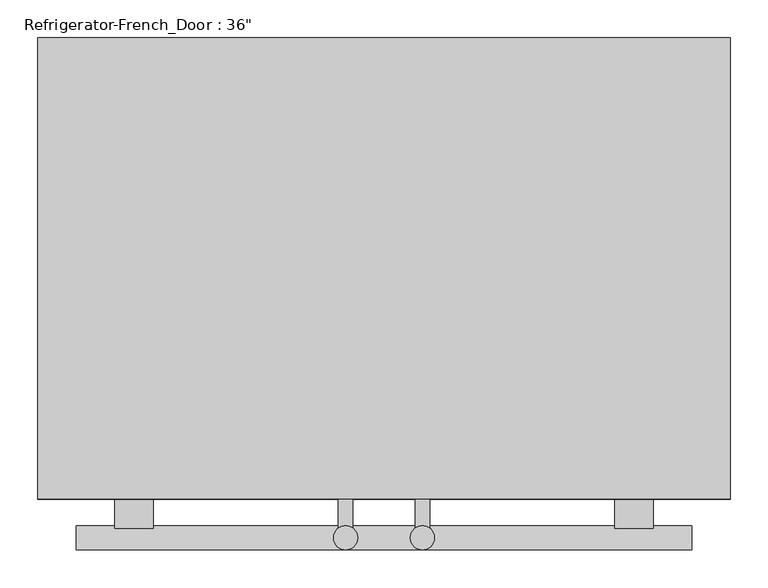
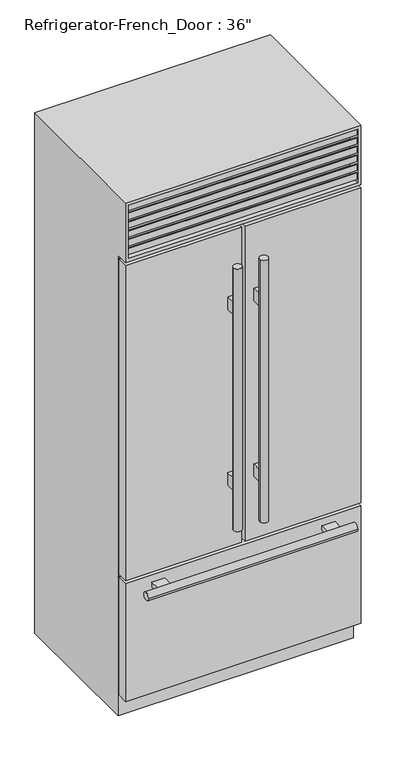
"""IFC4 building model written with IfcOpenShell, lengths in millimetres: proxy geometry."""

import ifcopenshell
import ifcopenshell.guid

model = None  # the IFC model being written
_history = None  # IfcOwnerHistory: only IFC2X3 demands one
_inside = {}  # id of a spatial element -> (the spatial element, [elements in it])
_under = {}  # id of a project, library or spatial element -> (it, [spatial elements below it])
_declared = {}  # id of a project -> (the project, [libraries it declares])
_typed = {}  # id of a type object -> (the type object, [elements of that type])
_made_of = {}  # id of a material, layer set ... -> (it, [elements and type objects made of it])


def new_model(schema):
    """Start an empty IFC model of exactly this schema.

    Asked for "IFC4X3", IfcOpenShell would pick the latest addendum, in which some entities
    have other attributes; the version numbers below select the first issue.
    IFC2X3 requires an IfcOwnerHistory on every rooted entity: one is made here for all.
    """
    global model, _history
    if schema == "IFC4X3":
        model = ifcopenshell.file(schema_version=(4, 3, 0, 0))
    else:
        model = ifcopenshell.file(schema=schema)
    _inside.clear()
    _under.clear()
    _declared.clear()
    _typed.clear()
    _made_of.clear()
    _history = None
    if model.schema == "IFC2X3":
        org = make("IfcOrganization", Name="unknown")
        user = make(
            "IfcPersonAndOrganization",
            ThePerson=make("IfcPerson", FamilyName="unknown"),
            TheOrganization=org,
        )
        app = make(
            "IfcApplication",
            ApplicationDeveloper=org,
            Version="unknown",
            ApplicationFullName="unknown",
            ApplicationIdentifier="unknown",
        )
        _history = make(
            "IfcOwnerHistory",
            OwningUser=user,
            OwningApplication=app,
            ChangeAction="ADDED",
            CreationDate=0,
        )
    return model


def make(cls, **values):
    """One entity of the class cls with the attributes given. An attribute that is None is left unset."""
    return model.create_entity(
        cls, **{name: value for name, value in values.items() if value is not None}
    )


def rooted(cls, **values):
    """An entity with a GlobalId (a new one), such as an element, a storey or a relation."""
    return make(cls, GlobalId=ifcopenshell.guid.new(), OwnerHistory=_history, **values)


def si_unit(unit_type, name, prefix=None):
    """IfcSIUnit, for example si_unit("LENGTHUNIT", "METRE", prefix="MILLI")."""
    return make("IfcSIUnit", UnitType=unit_type, Prefix=prefix, Name=name)


def assignment(units):
    """IfcUnitAssignment: the units of a project."""
    return None if units is None else make("IfcUnitAssignment", Units=units)


def point(xyz):
    """IfcCartesianPoint."""
    return None if xyz is None else make("IfcCartesianPoint", Coordinates=xyz)


def direction(xyz):
    """IfcDirection."""
    return None if xyz is None else make("IfcDirection", DirectionRatios=xyz)


def frame(location, z_axis=None, x_axis=None):
    """IfcAxis2Placement3D, a coordinate frame: its origin and axes. An axis left out is left unset."""
    return make(
        "IfcAxis2Placement3D",
        Location=point(location),
        Axis=direction(z_axis),
        RefDirection=direction(x_axis),
    )


def origin():
    """The frame at (0, 0, 0) with its axes left unset."""
    return frame((0.0, 0.0, 0.0))


def place(relative_to, where):
    """IfcLocalPlacement: puts the frame where relative to a parent placement (None: the world)."""
    return make(
        "IfcLocalPlacement", PlacementRelTo=relative_to, RelativePlacement=where
    )


def context(
    kind, dimensions, precision=None, world=None, true_north=None, identifier=None
):
    """IfcGeometricRepresentationContext, for example the 3D "Model" context."""
    return make(
        "IfcGeometricRepresentationContext",
        ContextIdentifier=identifier,
        ContextType=kind,
        CoordinateSpaceDimension=dimensions,
        Precision=precision,
        WorldCoordinateSystem=world,
        TrueNorth=true_north,
    )


def project(units=None, contexts=None):
    """IfcProject with its units and contexts."""
    return rooted(
        "IfcProject",
        Name="project",
        RepresentationContexts=contexts,
        UnitsInContext=assignment(units),
    )


def spatial(cls, under=None, at=None, **own):
    """A site, building, storey or space (cls), placed at a placement, below another one or the project."""
    s = rooted(cls, ObjectPlacement=at, **own)
    if under is not None:
        _under.setdefault(under.id(), (under, []))[1].append(s)
    return s


def polyline(points):
    """IfcPolyline through the points."""
    return make("IfcPolyline", Points=[point(p) for p in points])


def circle_curve(where, radius):
    """IfcCircle in the frame where."""
    return make("IfcCircle", Position=where, Radius=radius)


def ellipse_curve(where, semi_axis1, semi_axis2):
    """IfcEllipse in the frame where."""
    return make(
        "IfcEllipse", Position=where, SemiAxis1=semi_axis1, SemiAxis2=semi_axis2
    )


def outline(outer, holes=None, kind="AREA"):
    """IfcArbitraryClosedProfileDef: a profile drawn as a closed curve; with holes, ...WithVoids."""
    if holes is None:
        return make("IfcArbitraryClosedProfileDef", ProfileType=kind, OuterCurve=outer)
    return make(
        "IfcArbitraryProfileDefWithVoids",
        ProfileType=kind,
        OuterCurve=outer,
        InnerCurves=holes,
    )


def extrude(swept, where, along, depth):
    """IfcExtrudedAreaSolid: the profile swept, set in the frame where, extruded along a direction by depth."""
    return make(
        "IfcExtrudedAreaSolid",
        SweptArea=swept,
        Position=where,
        ExtrudedDirection=direction(along),
        Depth=depth,
    )


def faces_of(points, faces, orient=None, outer=None):
    """IfcFace entities. A face is a list of loops; a loop is a list of indices into points, from 0.

    orient and outer hold one flag for each loop. By default every Orientation is true, the
    first loop of a face is its IfcFaceOuterBound and the others are IfcFaceBound.
    """
    made = []
    for i, loops in enumerate(faces):
        bounds = []
        for j, loop in enumerate(loops):
            is_outer = j == 0 if outer is None else outer[i][j]
            bounds.append(
                make(
                    "IfcFaceOuterBound" if is_outer else "IfcFaceBound",
                    Bound=make("IfcPolyLoop", Polygon=[points[k] for k in loop]),
                    Orientation=True if orient is None else orient[i][j],
                )
            )
        made.append(make("IfcFace", Bounds=bounds))
    return made


def faceted_brep(points, faces, orient=None, outer=None, voids=None):
    """IfcFacetedBrep: a solid bounded by flat faces; with voids (closed shells), ...WithVoids."""
    shared = [point(p) for p in points]
    hull = make("IfcClosedShell", CfsFaces=faces_of(shared, faces, orient, outer))
    if voids is None:
        return make("IfcFacetedBrep", Outer=hull)
    return make(
        "IfcFacetedBrepWithVoids",
        Outer=hull,
        Voids=[
            make(cls, CfsFaces=faces_of(shared, fs, o, b)) for cls, fs, o, b in voids
        ],
    )


def shape(context_of_items, identifier, shape_type, items):
    """IfcShapeRepresentation: the items that make up one representation, for example the "Body"."""
    return make(
        "IfcShapeRepresentation",
        ContextOfItems=context_of_items,
        RepresentationIdentifier=identifier,
        RepresentationType=shape_type,
        Items=items,
    )


def source(mapping_origin, context_of_items, identifier, shape_type, items):
    """IfcRepresentationMap: a shape defined once, which mapped items show again and again."""
    return make(
        "IfcRepresentationMap",
        MappingOrigin=mapping_origin,
        MappedRepresentation=shape(context_of_items, identifier, shape_type, items),
    )


def transform(
    local_origin,
    x_axis=None,
    y_axis=None,
    z_axis=None,
    scale=None,
    scale2=None,
    scale3=None,
    uniform=True,
):
    """IfcCartesianTransformationOperator3D, or its non-uniform kind. x_axis, y_axis, z_axis: its Axis1, 2, 3."""
    if uniform:
        return make(
            "IfcCartesianTransformationOperator3D",
            Axis1=direction(x_axis),
            Axis2=direction(y_axis),
            LocalOrigin=point(local_origin),
            Scale=scale,
            Axis3=direction(z_axis),
        )
    return make(
        "IfcCartesianTransformationOperator3DnonUniform",
        Axis1=direction(x_axis),
        Axis2=direction(y_axis),
        LocalOrigin=point(local_origin),
        Scale=scale,
        Axis3=direction(z_axis),
        Scale2=scale2,
        Scale3=scale3,
    )


def mapped(mapping_source, mapping_target):
    """IfcMappedItem: shows the shape of a source again, moved by a transform."""
    return make(
        "IfcMappedItem", MappingSource=mapping_source, MappingTarget=mapping_target
    )


def made_of(thing, what):
    """Note that an element or type object is made of a material, layer set ...; save() writes the relation."""
    if what is not None:
        _made_of.setdefault(what.id(), (what, []))[1].append(thing)
    return thing


def element(
    cls,
    number,
    at=None,
    inside=None,
    cuts=None,
    type_object=None,
    material=None,
    context=None,
    identifier="Body",
    shape_type=None,
    held_by="IfcProductDefinitionShape",
    body=None,
    shapes=None,
    **own,
):
    """One element of the class cls, such as IfcWall. Its Tag is "e" and its number.

    at: its placement. inside: the storey or other place that contains it. cuts: it is an
    opening in that element (IfcRelVoidsElement). A single representation is given by context,
    identifier, shape_type and body (its items); several are given by shapes. held_by: the class
    of the entity that holds the representations. save() writes the other relations.
    """
    e = rooted(cls, Tag="e%d" % number, ObjectPlacement=at, **own)
    if body is not None:
        shapes = [shape(context, identifier, shape_type, body)]
    if shapes is not None:
        e.Representation = make(held_by, Representations=shapes)
    if inside is not None:
        _inside.setdefault(inside.id(), (inside, []))[1].append(e)
    if cuts is not None:
        rooted(
            "IfcRelVoidsElement", RelatingBuildingElement=cuts, RelatedOpeningElement=e
        )
    if type_object is not None:
        _typed.setdefault(type_object.id(), (type_object, []))[1].append(e)
    return made_of(e, material)


def aggregate(whole, parts):
    """IfcRelAggregates: a whole, such as a stair, and the parts it consists of."""
    return rooted("IfcRelAggregates", RelatingObject=whole, RelatedObjects=parts)


def save(model, path):
    """Write the relations noted so far, then the file.

    IfcRelAggregates (storeys below a building ...), IfcRelContainedInSpatialStructure (elements
    in a storey), IfcRelDefinesByType, IfcRelAssociatesMaterial and IfcRelDeclares: one each for
    every whole, place, type object, material and project.
    """
    for whole, parts in _under.values():
        aggregate(whole, parts)
    for where, things in _inside.values():
        rooted(
            "IfcRelContainedInSpatialStructure",
            RelatedElements=things,
            RelatingStructure=where,
        )
    for kind, things in _typed.values():
        rooted("IfcRelDefinesByType", RelatedObjects=things, RelatingType=kind)
    for what, things in _made_of.values():
        rooted("IfcRelAssociatesMaterial", RelatedObjects=things, RelatingMaterial=what)
    for by, libraries in _declared.values():
        rooted("IfcRelDeclares", RelatingContext=by, RelatedDefinitions=libraries)
    model.write(path)


def plane_surface(at):
    """IfcPlane: the flat surface through the origin of the frame at, square to its z axis."""
    return make("IfcPlane", Position=at)


def cylinder_surface(at, radius):
    """IfcCylindricalSurface: all points at the distance radius from the z axis of the frame at."""
    return make("IfcCylindricalSurface", Position=at, Radius=radius)


def advanced_brep(points, edges, surfaces, faces):
    """IfcAdvancedBrep: a solid bounded by faces that lie on surfaces and meet in shared edges.

    An edge is (start, end): straight between two places in points (the first is 0);
    or (start, end, curve); or (start, end, curve, False) where it runs against its curve.
    A face is (place in surfaces, loops), or (place, loops, False) where it looks against
    its surface's normal. A loop lists edges by number (the first is 1), with a minus sign
    where the edge is run from its end to its start. The first loop is the outer one.
    """
    corners = [point(p) for p in points]
    vertices = [make("IfcVertexPoint", VertexGeometry=c) for c in corners]
    made = []
    for start, end, *more in edges:
        made.append(
            make(
                "IfcEdgeCurve",
                EdgeStart=vertices[start],
                EdgeEnd=vertices[end],
                EdgeGeometry=more[0] if more else make("IfcPolyline", Points=[corners[start], corners[end]]),
                SameSense=more[1] if len(more) > 1 else True,
            )
        )
    hull = []
    for where, loops, *sense in faces:
        bounds = []
        for j, loop in enumerate(loops):
            ring = [make("IfcOrientedEdge", EdgeElement=made[abs(k) - 1], Orientation=k > 0) for k in loop]
            bounds.append(
                make(
                    "IfcFaceOuterBound" if j == 0 else "IfcFaceBound",
                    Bound=make("IfcEdgeLoop", EdgeList=ring),
                    Orientation=True,
                )
            )
        hull.append(make("IfcAdvancedFace", Bounds=bounds, FaceSurface=surfaces[where], SameSense=sense[0] if sense else True))
    return make("IfcAdvancedBrep", Outer=make("IfcClosedShell", CfsFaces=hull))


def proxy_7f263747(model_context):
    return source(origin(), model_context, "Body", "SolidModel", [
        extrude(outline(polyline([(-660.4, 1901.825), (-708.025, 1914.5860803), (-708.025, 1939.9860803), (-704.85, 1939.9860803), (-704.85, 1917.1368938), (-660.4, 1905.2265522), (-660.4, 1901.825)])), frame((-444.5, 0.0, 0.0), z_axis=(1.0, 0.0, 0.0), x_axis=(0.0, 1.0, 0.0)), (0.0, 0.0, 1.0), 889.0),
        extrude(outline(polyline([(-660.4, 1938.0077839), (-708.025, 1950.7688642), (-708.025, 1976.1688642), (-704.85, 1976.1688642), (-704.85, 1953.3196777), (-660.4, 1941.4093361), (-660.4, 1938.0077839)])), frame((-444.5, 0.0, 0.0), z_axis=(1.0, 0.0, 0.0), x_axis=(0.0, 1.0, 0.0)), (0.0, 0.0, 1.0), 889.0),
        extrude(outline(polyline([(-660.4, 1974.1905679), (-708.025, 1986.9516482), (-708.025, 2012.3516482), (-704.85, 2012.3516482), (-704.85, 1989.5024616), (-660.4, 1977.59212), (-660.4, 1974.1905679)])), frame((-444.5, 0.0, 0.0), z_axis=(1.0, 0.0, 0.0), x_axis=(0.0, 1.0, 0.0)), (0.0, 0.0, 1.0), 889.0),
        extrude(outline(polyline([(-660.4, 2010.3733518), (-708.025, 2023.1344321), (-708.025, 2048.5344321), (-704.85, 2048.5344321), (-704.85, 2025.6852456), (-660.4, 2013.774904), (-660.4, 2010.3733518)])), frame((-444.5, 0.0, 0.0), z_axis=(1.0, 0.0, 0.0), x_axis=(0.0, 1.0, 0.0)), (0.0, 0.0, 1.0), 889.0),
        extrude(outline(polyline([(-660.4, 2046.5561358), (-708.025, 2059.3172161), (-708.025, 2084.7172161), (-704.85, 2084.7172161), (-704.85, 2061.8680295), (-660.4, 2049.9576879), (-660.4, 2046.5561358)])), frame((-444.5, 0.0, 0.0), z_axis=(1.0, 0.0, 0.0), x_axis=(0.0, 1.0, 0.0)), (0.0, 0.0, 1.0), 889.0),
        extrude(outline(polyline([(-660.4, 2082.7389197), (-708.025, 2095.5), (-708.025, 2120.9), (-704.85, 2120.9), (-704.85, 2098.0508135), (-660.4, 2086.1404719), (-660.4, 2082.7389197)])), frame((-444.5, 0.0, 0.0), z_axis=(1.0, 0.0, 0.0), x_axis=(0.0, 1.0, 0.0)), (0.0, 0.0, 1.0), 889.0),
        faceted_brep([(457.2, -711.2, 2133.6), (-457.2, -711.2, 2133.6), (-457.2, -711.2, 1889.125), (457.2, -711.2, 1889.125), (444.5, -711.2, 2120.9), (444.5, -711.2, 1901.825), (-444.5, -711.2, 1901.825), (-444.5, -711.2, 2120.9), (457.2, -101.6, 2133.6), (-457.2, -101.6, 2133.6), (-457.2, -101.6, 0.0), (-457.2, -660.4, 0.0), (-457.2, -660.4, 1889.125), (457.2, -660.4, 1889.125), (457.2, -660.4, 0.0), (457.2, -101.6, 0.0), (-444.5, -660.4, 2120.9), (444.5, -660.4, 2120.9), (-444.5, -660.4, 1901.825), (444.5, -660.4, 1901.825)], [[[0, 1, 2, 3], [4, 5, 6, 7]], [[1, 0, 8, 9]], [[2, 1, 9, 10, 11, 12]], [[3, 2, 12, 13]], [[8, 0, 3, 13, 14, 15]], [[4, 7, 16, 17]], [[7, 6, 18, 16]], [[6, 5, 19, 18]], [[5, 4, 17, 19]], [[15, 14, 11, 10]], [[9, 8, 15, 10]], [[17, 16, 18, 19]], [[11, 14, 13, 12]]]),
        extrude(outline(polyline([(-457.2, -666.75), (-6.35, -666.75), (-6.35, -711.2), (-457.2, -711.2), (-457.2, -666.75)])), frame((0.0, 0.0, 584.2), z_axis=(0.0, 0.0, 1.0), x_axis=(1.0, 0.0, 0.0)), (0.0, 0.0, 1.0), 1292.225),
        extrude(outline(polyline([(6.35, -666.75), (457.2, -666.75), (457.2, -711.2), (6.35, -711.2), (6.35, -666.75)])), frame((0.0, 0.0, 584.2), z_axis=(0.0, 0.0, 1.0), x_axis=(1.0, 0.0, 0.0)), (0.0, 0.0, 1.0), 1292.225),
        extrude(outline(polyline([(-457.2, -666.75), (457.2, -666.75), (457.2, -711.2), (-457.2, -711.2), (-457.2, -666.75)])), frame((0.0, 0.0, 88.9), z_axis=(0.0, 0.0, 1.0), x_axis=(1.0, 0.0, 0.0)), (0.0, 0.0, 1.0), 482.6),
        advanced_brep(
        [(-41.275, -711.2, 1609.725), (-41.275, -711.2, 1558.925), (-60.325, -711.2, 1558.925), (-60.325, -711.2, 1609.725), (-41.275, -711.2, 889.0), (-41.275, -711.2, 838.2), (-60.325, -711.2, 838.2), (-60.325, -711.2, 889.0), (-41.275, -749.6741958, 1609.725), (-41.275, -749.6741958, 1558.925), (-60.325, -749.6741958, 1558.925), (-60.325, -749.6741958, 1609.725), (-41.275, -749.6741958, 889.0), (-41.275, -749.6741958, 838.2), (-60.325, -749.6741958, 838.2), (-60.325, -749.6741958, 889.0), (-66.675, -762.3741958, 1762.125), (-34.925, -762.3741958, 1762.125), (-66.675, -762.3741958, 685.8), (-34.925, -762.3741958, 685.8)],
        [
            (0, 1),
            (1, 2),
            (2, 3),
            (3, 0),
            (4, 5),
            (5, 6),
            (6, 7),
            (7, 4),
            (0, 8),
            (8, 9),
            (9, 1),
            (9, 10, circle_curve(frame((-50.8, -762.3741958, 1558.925), z_axis=(0.0, 0.0, 1.0), x_axis=(1.0, 0.0, 0.0)), 15.875)),
            (10, 2),
            (10, 11),
            (11, 3),
            (11, 8, circle_curve(frame((-50.8, -762.3741958, 1609.725), z_axis=(0.0, 0.0, -1.0), x_axis=(1.0, 0.0, 0.0)), 15.875)),
            (4, 12),
            (12, 13),
            (13, 5),
            (13, 14, circle_curve(frame((-50.8, -762.3741958, 838.2), z_axis=(0.0, 0.0, 1.0), x_axis=(1.0, 0.0, 0.0)), 15.875)),
            (14, 6),
            (14, 15),
            (15, 7),
            (15, 12, circle_curve(frame((-50.8, -762.3741958, 889.0), z_axis=(0.0, 0.0, -1.0), x_axis=(1.0, 0.0, 0.0)), 15.875)),
            (16, 17, circle_curve(frame((-50.8, -762.3741958, 1762.125), z_axis=(0.0, 0.0, 1.0), x_axis=(1.0, 0.0, 0.0)), 15.875)),
            (17, 16, circle_curve(frame((-50.8, -762.3741958, 1762.125), z_axis=(0.0, 0.0, 1.0), x_axis=(1.0, 0.0, 0.0)), 15.875)),
            (18, 19, circle_curve(frame((-50.8, -762.3741958, 685.8), z_axis=(0.0, 0.0, -1.0), x_axis=(1.0, 0.0, 0.0)), 15.875)),
            (19, 18, circle_curve(frame((-50.8, -762.3741958, 685.8), z_axis=(0.0, 0.0, -1.0), x_axis=(1.0, 0.0, 0.0)), 15.875)),
            (16, 18),
            (19, 17),
        ],
        [
            plane_surface(frame((-41.275, -711.2, 1609.725), z_axis=(0.0, 1.0, 0.0), x_axis=(0.0, 0.0, -1.0))),
            plane_surface(frame((-41.275, -711.2, 1609.725), z_axis=(1.0, 0.0, 0.0), x_axis=(0.0, -1.0, 0.0))),
            plane_surface(frame((-41.275, -711.2, 1558.925), z_axis=(0.0, 0.0, -1.0), x_axis=(0.0, -1.0, 0.0))),
            plane_surface(frame((-60.325, -711.2, 1558.925), z_axis=(-1.0, 0.0, 0.0), x_axis=(0.0, -1.0, 0.0))),
            plane_surface(frame((-60.325, -711.2, 1609.725), z_axis=(0.0, 0.0, 1.0), x_axis=(0.0, -1.0, 0.0))),
            plane_surface(frame((-41.275, -711.2, 889.0), z_axis=(1.0, 0.0, 0.0), x_axis=(0.0, -1.0, 0.0))),
            plane_surface(frame((-41.275, -711.2, 838.2), z_axis=(0.0, 0.0, -1.0), x_axis=(0.0, -1.0, 0.0))),
            plane_surface(frame((-60.325, -711.2, 838.2), z_axis=(-1.0, 0.0, 0.0), x_axis=(0.0, -1.0, 0.0))),
            plane_surface(frame((-60.325, -711.2, 889.0), z_axis=(0.0, 0.0, 1.0), x_axis=(0.0, -1.0, 0.0))),
            plane_surface(frame((-34.925, -762.3741958, 1762.125), z_axis=(0.0, 0.0, 1.0), x_axis=(0.0, 1.0, 0.0))),
            plane_surface(frame((-34.925, -762.3741958, 685.8), z_axis=(0.0, 0.0, -1.0), x_axis=(0.0, -1.0, 0.0))),
            cylinder_surface(frame((-50.8, -762.3741958, 685.8), z_axis=(0.0, 0.0, 1.0), x_axis=(1.0, 0.0, 0.0)), 15.875),
        ],
        [
            (0, [[1, 2, 3, 4]]),
            (0, [[5, 6, 7, 8]]),
            (1, [[-1, 9, 10, 11]]),
            (2, [[-2, -11, 12, 13]]),
            (3, [[-3, -13, 14, 15]]),
            (4, [[-4, -15, 16, -9]]),
            (5, [[-5, 17, 18, 19]]),
            (6, [[-6, -19, 20, 21]]),
            (7, [[-7, -21, 22, 23]]),
            (8, [[-8, -23, 24, -17]]),
            (9, [[25, 26]]),
            (10, [[27, 28]]),
            (11, [[-25, 29, -28, 30]]),
            (11, [[-26, -30, -27, -29], [-10, -16, -14, -12], [-18, -24, -22, -20]]),
        ],
    ),
        advanced_brep(
        [(34.925, -762.3741958, 1762.125), (66.675, -762.3741958, 1762.125), (34.925, -762.3741958, 685.8), (66.675, -762.3741958, 685.8), (60.325, -749.6741958, 1558.925), (60.325, -749.6741958, 1609.725), (41.275, -749.6741958, 1609.725), (41.275, -749.6741958, 1558.925), (60.325, -749.6741958, 838.2), (60.325, -749.6741958, 889.0), (41.275, -749.6741958, 889.0), (41.275, -749.6741958, 838.2), (60.325, -711.2, 1609.725), (60.325, -711.2, 1558.925), (41.275, -711.2, 1558.925), (41.275, -711.2, 1609.725), (60.325, -711.2, 889.0), (60.325, -711.2, 838.2), (41.275, -711.2, 838.2), (41.275, -711.2, 889.0)],
        [
            (0, 1, circle_curve(frame((50.8, -762.3741958, 1762.125), z_axis=(0.0, 0.0, 1.0), x_axis=(1.0, 0.0, 0.0)), 15.875)),
            (1, 0, circle_curve(frame((50.8, -762.3741958, 1762.125), z_axis=(0.0, 0.0, 1.0), x_axis=(1.0, 0.0, 0.0)), 15.875)),
            (2, 3, circle_curve(frame((50.8, -762.3741958, 685.8), z_axis=(0.0, 0.0, -1.0), x_axis=(1.0, 0.0, 0.0)), 15.875)),
            (3, 2, circle_curve(frame((50.8, -762.3741958, 685.8), z_axis=(0.0, 0.0, -1.0), x_axis=(1.0, 0.0, 0.0)), 15.875)),
            (0, 2),
            (3, 1),
            (4, 5),
            (5, 6, circle_curve(frame((50.8, -762.3741958, 1609.725), z_axis=(0.0, 0.0, 1.0), x_axis=(1.0, 0.0, 0.0)), 15.875)),
            (6, 7),
            (7, 4, circle_curve(frame((50.8, -762.3741958, 1558.925), z_axis=(0.0, 0.0, -1.0), x_axis=(1.0, 0.0, 0.0)), 15.875)),
            (8, 9),
            (9, 10, circle_curve(frame((50.8, -762.3741958, 889.0), z_axis=(0.0, 0.0, 1.0), x_axis=(1.0, 0.0, 0.0)), 15.875)),
            (10, 11),
            (11, 8, circle_curve(frame((50.8, -762.3741958, 838.2), z_axis=(0.0, 0.0, -1.0), x_axis=(1.0, 0.0, 0.0)), 15.875)),
            (12, 13),
            (13, 14),
            (14, 15),
            (15, 12),
            (16, 17),
            (17, 18),
            (18, 19),
            (19, 16),
            (12, 5),
            (4, 13),
            (7, 14),
            (6, 15),
            (16, 9),
            (8, 17),
            (11, 18),
            (10, 19),
        ],
        [
            plane_surface(frame((66.675, -762.3741958, 1762.125), z_axis=(0.0, 0.0, 1.0), x_axis=(0.0, 1.0, 0.0))),
            plane_surface(frame((66.675, -762.3741958, 685.8), z_axis=(0.0, 0.0, -1.0), x_axis=(0.0, -1.0, 0.0))),
            cylinder_surface(frame((50.8, -762.3741958, 685.8), z_axis=(0.0, 0.0, 1.0), x_axis=(1.0, 0.0, 0.0)), 15.875),
            plane_surface(frame((60.325, -711.2, 1609.725), z_axis=(0.0, 1.0, 0.0), x_axis=(0.0, 0.0, -1.0))),
            plane_surface(frame((60.325, -711.2, 1609.725), z_axis=(1.0, 0.0, 0.0), x_axis=(0.0, -1.0, 0.0))),
            plane_surface(frame((60.325, -711.2, 1558.925), z_axis=(0.0, 0.0, -1.0), x_axis=(0.0, -1.0, 0.0))),
            plane_surface(frame((41.275, -711.2, 1558.925), z_axis=(-1.0, 0.0, 0.0), x_axis=(0.0, -1.0, 0.0))),
            plane_surface(frame((41.275, -711.2, 1609.725), z_axis=(0.0, 0.0, 1.0), x_axis=(0.0, -1.0, 0.0))),
            plane_surface(frame((60.325, -711.2, 889.0), z_axis=(1.0, 0.0, 0.0), x_axis=(0.0, -1.0, 0.0))),
            plane_surface(frame((60.325, -711.2, 838.2), z_axis=(0.0, 0.0, -1.0), x_axis=(0.0, -1.0, 0.0))),
            plane_surface(frame((41.275, -711.2, 838.2), z_axis=(-1.0, 0.0, 0.0), x_axis=(0.0, -1.0, 0.0))),
            plane_surface(frame((41.275, -711.2, 889.0), z_axis=(0.0, 0.0, 1.0), x_axis=(0.0, -1.0, 0.0))),
        ],
        [
            (0, [[1, 2]]),
            (1, [[3, 4]]),
            (2, [[-1, 5, -4, 6]]),
            (2, [[-2, -6, -3, -5], [7, 8, 9, 10], [11, 12, 13, 14]]),
            (3, [[15, 16, 17, 18]]),
            (3, [[19, 20, 21, 22]]),
            (4, [[-15, 23, -7, 24]]),
            (5, [[-16, -24, -10, 25]]),
            (6, [[-17, -25, -9, 26]]),
            (7, [[-18, -26, -8, -23]]),
            (8, [[-19, 27, -11, 28]]),
            (9, [[-20, -28, -14, 29]]),
            (10, [[-21, -29, -13, 30]]),
            (11, [[-22, -30, -12, -27]]),
        ],
    ),
        advanced_brep(
        [(-304.8, -711.2, 542.925), (-304.8, -711.2, 523.875), (-355.6, -711.2, 523.875), (-355.6, -711.2, 542.925), (304.8, -711.2, 542.925), (355.6, -711.2, 542.925), (355.6, -711.2, 523.875), (304.8, -711.2, 523.875), (-304.8, -749.6741958, 542.925), (-304.8, -746.4991958, 533.4), (-304.8, -749.6741958, 523.875), (-355.6, -749.6741958, 523.875), (-355.6, -746.4991958, 533.4), (-355.6, -749.6741958, 542.925), (304.8, -749.6741958, 542.925), (355.6, -749.6741958, 542.925), (355.6, -746.4991958, 533.4), (355.6, -749.6741958, 523.875), (304.8, -749.6741958, 523.875), (304.8, -746.4991958, 533.4), (406.4, -778.2491958, 533.4), (406.4, -746.4991958, 533.4), (-406.4, -778.2491958, 533.4), (-406.4, -746.4991958, 533.4)],
        [
            (0, 1),
            (1, 2),
            (2, 3),
            (3, 0),
            (4, 5),
            (5, 6),
            (6, 7),
            (7, 4),
            (0, 8),
            (8, 9, circle_curve(frame((-304.8, -762.3741958, 533.4), z_axis=(-1.0, 0.0, 0.0), x_axis=(0.0, 1.0, 0.0)), 15.875)),
            (9, 10, circle_curve(frame((-304.8, -762.3741958, 533.4), z_axis=(-1.0, 0.0, 0.0), x_axis=(0.0, 1.0, 0.0)), 15.875)),
            (10, 1),
            (10, 11),
            (11, 2),
            (11, 12, circle_curve(frame((-355.6, -762.3741958, 533.4), z_axis=(1.0, 0.0, 0.0), x_axis=(0.0, 1.0, 0.0)), 15.875)),
            (12, 13, circle_curve(frame((-355.6, -762.3741958, 533.4), z_axis=(1.0, 0.0, 0.0), x_axis=(0.0, 1.0, 0.0)), 15.875)),
            (13, 3),
            (13, 8),
            (4, 14),
            (14, 15),
            (15, 5),
            (15, 16, circle_curve(frame((355.6, -762.3741958, 533.4), z_axis=(-1.0, 0.0, 0.0), x_axis=(0.0, 1.0, 0.0)), 15.875)),
            (16, 17, circle_curve(frame((355.6, -762.3741958, 533.4), z_axis=(-1.0, 0.0, 0.0), x_axis=(0.0, 1.0, 0.0)), 15.875)),
            (17, 6),
            (17, 18),
            (18, 7),
            (18, 19, circle_curve(frame((304.8, -762.3741958, 533.4), z_axis=(1.0, 0.0, 0.0), x_axis=(0.0, 1.0, 0.0)), 15.875)),
            (19, 14, circle_curve(frame((304.8, -762.3741958, 533.4), z_axis=(1.0, 0.0, 0.0), x_axis=(0.0, 1.0, 0.0)), 15.875)),
            (20, 21, circle_curve(frame((406.4, -762.3741958, 533.4), z_axis=(1.0, 0.0, 0.0), x_axis=(0.0, 1.0, 0.0)), 15.875)),
            (21, 20, circle_curve(frame((406.4, -762.3741958, 533.4), z_axis=(1.0, 0.0, 0.0), x_axis=(0.0, 1.0, 0.0)), 15.875)),
            (22, 23, circle_curve(frame((-406.4, -762.3741958, 533.4), z_axis=(-1.0, 0.0, 0.0), x_axis=(0.0, 1.0, 0.0)), 15.875)),
            (23, 22, circle_curve(frame((-406.4, -762.3741958, 533.4), z_axis=(-1.0, 0.0, 0.0), x_axis=(0.0, 1.0, 0.0)), 15.875)),
            (20, 22),
            (23, 12),
            (9, 19),
            (16, 21),
        ],
        [
            plane_surface(frame((-304.8, -711.2, 542.925), z_axis=(0.0, 1.0, 0.0), x_axis=(0.0, 0.0, -1.0))),
            plane_surface(frame((-304.8, -711.2, 542.925), z_axis=(1.0, 0.0, 0.0), x_axis=(0.0, -1.0, 0.0))),
            plane_surface(frame((-304.8, -711.2, 523.875), z_axis=(0.0, 0.0, -1.0), x_axis=(0.0, -1.0, 0.0))),
            plane_surface(frame((-355.6, -711.2, 523.875), z_axis=(-1.0, 0.0, 0.0), x_axis=(0.0, -1.0, 0.0))),
            plane_surface(frame((-355.6, -711.2, 542.925), z_axis=(0.0, 0.0, 1.0), x_axis=(0.0, -1.0, 0.0))),
            plane_surface(frame((304.8, -711.2, 542.925), z_axis=(0.0, 0.0, 1.0), x_axis=(0.0, -1.0, 0.0))),
            plane_surface(frame((355.6, -711.2, 542.925), z_axis=(1.0, 0.0, 0.0), x_axis=(0.0, -1.0, 0.0))),
            plane_surface(frame((355.6, -711.2, 523.875), z_axis=(0.0, 0.0, -1.0), x_axis=(0.0, -1.0, 0.0))),
            plane_surface(frame((304.8, -711.2, 523.875), z_axis=(-1.0, 0.0, 0.0), x_axis=(0.0, -1.0, 0.0))),
            plane_surface(frame((406.4, -746.4991958, 533.4), z_axis=(1.0, 0.0, 0.0), x_axis=(0.0, 0.0, 1.0))),
            plane_surface(frame((-406.4, -746.4991958, 533.4), z_axis=(-1.0, 0.0, 0.0), x_axis=(0.0, 0.0, -1.0))),
            cylinder_surface(frame((-406.4, -762.3741958, 533.4), z_axis=(1.0, 0.0, 0.0), x_axis=(0.0, 1.0, 0.0)), 15.875),
        ],
        [
            (0, [[1, 2, 3, 4]]),
            (0, [[5, 6, 7, 8]]),
            (1, [[-1, 9, 10, 11, 12]]),
            (2, [[-2, -12, 13, 14]]),
            (3, [[-3, -14, 15, 16, 17]]),
            (4, [[-4, -17, 18, -9]]),
            (5, [[-5, 19, 20, 21]]),
            (6, [[-6, -21, 22, 23, 24]]),
            (7, [[-7, -24, 25, 26]]),
            (8, [[-8, -26, 27, 28, -19]]),
            (9, [[29, 30]]),
            (10, [[31, 32]]),
            (11, [[-29, 33, -32, 34, -15, -13, -11, 35, -27, -25, -23, 36]]),
            (11, [[-30, -36, -22, -20, -28, -35, -10, -18, -16, -34, -31, -33]]),
        ],
    ),
        advanced_brep(
        [(-450.85, -660.4, 1870.075), (-450.85, -666.75, 1870.075), (-450.85, -666.75, 590.55), (-450.85, -660.4, 590.55), (-454.025, -666.75, 1873.25), (-454.025, -660.4, 1873.25), (-454.025, -660.4, 587.375), (-454.025, -666.75, 587.375), (-12.7, -666.75, 590.55), (-12.7, -660.4, 590.55), (-9.525, -660.4, 587.375), (-9.525, -666.75, 587.375), (-12.7, -666.75, 1870.075), (-12.7, -660.4, 1870.075), (-9.525, -660.4, 1873.25), (-9.525, -666.75, 1873.25)],
        [
            (0, 1),
            (1, 2),
            (2, 3),
            (3, 0),
            (4, 5, ellipse_curve(frame((-454.025, -663.575, 1873.25), z_axis=(-0.7071067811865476, 0.0, -0.7071067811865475), x_axis=(-0.7071067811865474, 0.0, 0.7071067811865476)), 4.4901281, 3.175)),
            (5, 6),
            (6, 7, ellipse_curve(frame((-454.025, -663.575, 587.375), z_axis=(-0.7071067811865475, 0.0, 0.7071067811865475), x_axis=(0.7071067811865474, 0.0, 0.7071067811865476)), 4.4901281, 3.175)),
            (7, 4),
            (2, 8),
            (8, 9),
            (9, 3),
            (6, 10),
            (10, 11, ellipse_curve(frame((-9.525, -663.575, 587.375), z_axis=(-0.7071067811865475, 0.0, -0.7071067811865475), x_axis=(-0.7071067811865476, 0.0, 0.7071067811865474)), 4.4901281, 3.175)),
            (11, 7),
            (8, 12),
            (12, 13),
            (13, 9),
            (10, 14),
            (14, 15, ellipse_curve(frame((-9.525, -663.575, 1873.25), z_axis=(0.7071067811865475, 0.0, -0.7071067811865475), x_axis=(-0.7071067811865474, 0.0, -0.7071067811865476)), 4.4901281, 3.175)),
            (15, 11),
            (12, 1),
            (0, 13),
            (5, 14),
            (4, 15),
        ],
        [
            plane_surface(frame((-450.85, -666.75, 1870.075), z_axis=(1.0, 0.0, 0.0), x_axis=(0.0, 0.0, -1.0))),
            cylinder_surface(frame((-454.025, -663.575, 1876.425), z_axis=(0.0, 0.0, 1.0), x_axis=(0.0, -1.0, 0.0)), 3.175),
            plane_surface(frame((-450.85, -666.75, 590.55), z_axis=(0.0, 0.0, 1.0), x_axis=(1.0, 0.0, 0.0))),
            cylinder_surface(frame((-457.2, -663.575, 587.375), z_axis=(-1.0, 0.0, 0.0), x_axis=(0.0, -1.0, 0.0)), 3.175),
            plane_surface(frame((-12.7, -666.75, 590.55), z_axis=(-1.0, 0.0, 0.0), x_axis=(0.0, 0.0, 1.0))),
            cylinder_surface(frame((-9.525, -663.575, 584.2), z_axis=(0.0, 0.0, -1.0), x_axis=(0.0, -1.0, 0.0)), 3.175),
            plane_surface(frame((-12.7, -666.75, 1870.075), z_axis=(0.0, 0.0, -1.0), x_axis=(-1.0, 0.0, 0.0))),
            plane_surface(frame((-12.7, -660.4, 1870.075), z_axis=(0.0, 1.0, 0.0), x_axis=(-1.0, 0.0, 0.0))),
            cylinder_surface(frame((-6.35, -663.575, 1873.25), z_axis=(1.0, 0.0, 0.0), x_axis=(0.0, -1.0, 0.0)), 3.175),
            plane_surface(frame((-9.525, -666.75, 1873.25), z_axis=(0.0, -1.0, 0.0), x_axis=(-1.0, 0.0, 0.0))),
        ],
        [
            (0, [[1, 2, 3, 4]]),
            (1, [[5, 6, 7, 8]]),
            (2, [[-3, 9, 10, 11]]),
            (3, [[-7, 12, 13, 14]]),
            (4, [[-10, 15, 16, 17]]),
            (5, [[-13, 18, 19, 20]]),
            (6, [[-16, 21, -1, 22]]),
            (7, [[23, -18, -12, -6], [-11, -17, -22, -4]]),
            (8, [[-19, -23, -5, 24]]),
            (9, [[-14, -20, -24, -8], [-21, -15, -9, -2]]),
        ],
    ),
        advanced_brep(
        [(12.7, -660.4, 1870.075), (12.7, -666.75, 1870.075), (12.7, -666.75, 590.55), (12.7, -660.4, 590.55), (9.525, -666.75, 1873.25), (9.525, -660.4, 1873.25), (9.525, -660.4, 587.375), (9.525, -666.75, 587.375), (450.85, -666.75, 590.55), (450.85, -660.4, 590.55), (454.025, -660.4, 587.375), (454.025, -666.75, 587.375), (450.85, -666.75, 1870.075), (450.85, -660.4, 1870.075), (454.025, -660.4, 1873.25), (454.025, -666.75, 1873.25)],
        [
            (0, 1),
            (1, 2),
            (2, 3),
            (3, 0),
            (4, 5, ellipse_curve(frame((9.525, -663.575, 1873.25), z_axis=(-0.7071067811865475, 0.0, -0.7071067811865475), x_axis=(-0.7071067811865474, 0.0, 0.7071067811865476)), 4.4901281, 3.175)),
            (5, 6),
            (6, 7, ellipse_curve(frame((9.525, -663.575, 587.375), z_axis=(-0.7071067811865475, 0.0, 0.7071067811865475), x_axis=(0.7071067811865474, 0.0, 0.7071067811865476)), 4.4901281, 3.175)),
            (7, 4),
            (2, 8),
            (8, 9),
            (9, 3),
            (6, 10),
            (10, 11, ellipse_curve(frame((454.025, -663.575, 587.375), z_axis=(-0.7071067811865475, 0.0, -0.7071067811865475), x_axis=(-0.7071067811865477, 0.0, 0.7071067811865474)), 4.4901281, 3.175)),
            (11, 7),
            (8, 12),
            (12, 13),
            (13, 9),
            (10, 14),
            (14, 15, ellipse_curve(frame((454.025, -663.575, 1873.25), z_axis=(0.7071067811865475, 0.0, -0.7071067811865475), x_axis=(-0.7071067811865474, 0.0, -0.7071067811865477)), 4.4901281, 3.175)),
            (15, 11),
            (12, 1),
            (0, 13),
            (5, 14),
            (4, 15),
        ],
        [
            plane_surface(frame((12.7, -666.75, 1870.075), z_axis=(1.0, 0.0, 0.0), x_axis=(0.0, 0.0, -1.0))),
            cylinder_surface(frame((9.525, -663.575, 1876.425), z_axis=(0.0, 0.0, 1.0), x_axis=(0.0, -1.0, 0.0)), 3.175),
            plane_surface(frame((12.7, -666.75, 590.55), z_axis=(0.0, 0.0, 1.0), x_axis=(1.0, 0.0, 0.0))),
            cylinder_surface(frame((6.35, -663.575, 587.375), z_axis=(-1.0, 0.0, 0.0), x_axis=(0.0, -1.0, 0.0)), 3.175),
            plane_surface(frame((450.85, -666.75, 590.55), z_axis=(-1.0, 0.0, 0.0), x_axis=(0.0, 0.0, 1.0))),
            cylinder_surface(frame((454.025, -663.575, 584.2), z_axis=(0.0, 0.0, -1.0), x_axis=(0.0, -1.0, 0.0)), 3.175),
            plane_surface(frame((450.85, -666.75, 1870.075), z_axis=(0.0, 0.0, -1.0), x_axis=(-1.0, 0.0, 0.0))),
            plane_surface(frame((450.85, -660.4, 1870.075), z_axis=(0.0, 1.0, 0.0), x_axis=(-1.0, 0.0, 0.0))),
            cylinder_surface(frame((457.2, -663.575, 1873.25), z_axis=(1.0, 0.0, 0.0), x_axis=(0.0, -1.0, 0.0)), 3.175),
            plane_surface(frame((454.025, -666.75, 1873.25), z_axis=(0.0, -1.0, 0.0), x_axis=(-1.0, 0.0, 0.0))),
        ],
        [
            (0, [[1, 2, 3, 4]]),
            (1, [[5, 6, 7, 8]]),
            (2, [[-3, 9, 10, 11]]),
            (3, [[-7, 12, 13, 14]]),
            (4, [[-10, 15, 16, 17]]),
            (5, [[-13, 18, 19, 20]]),
            (6, [[-16, 21, -1, 22]]),
            (7, [[23, -18, -12, -6], [-11, -17, -22, -4]]),
            (8, [[-19, -23, -5, 24]]),
            (9, [[-14, -20, -24, -8], [-21, -15, -9, -2]]),
        ],
    ),
        advanced_brep(
        [(-450.85, -660.4, 565.15), (-450.85, -666.75, 565.15), (-450.85, -666.75, 95.25), (-450.85, -660.4, 95.25), (-454.025, -666.75, 568.325), (-454.025, -660.4, 568.325), (-454.025, -660.4, 92.075), (-454.025, -666.75, 92.075), (450.85, -666.75, 95.25), (450.85, -660.4, 95.25), (454.025, -660.4, 92.075), (454.025, -666.75, 92.075), (450.85, -666.75, 565.15), (450.85, -660.4, 565.15), (454.025, -660.4, 568.325), (454.025, -666.75, 568.325)],
        [
            (0, 1),
            (1, 2),
            (2, 3),
            (3, 0),
            (4, 5, ellipse_curve(frame((-454.025, -663.575, 568.325), z_axis=(-0.7071067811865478, 0.0, -0.7071067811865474), x_axis=(-0.7071067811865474, 0.0, 0.7071067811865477)), 4.4901281, 3.175)),
            (5, 6),
            (6, 7, ellipse_curve(frame((-454.025, -663.575, 92.075), z_axis=(-0.7071067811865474, 0.0, 0.7071067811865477), x_axis=(0.7071067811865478, 0.0, 0.7071067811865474)), 4.4901281, 3.175)),
            (7, 4),
            (2, 8),
            (8, 9),
            (9, 3),
            (6, 10),
            (10, 11, ellipse_curve(frame((454.025, -663.575, 92.075), z_axis=(-0.7071067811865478, 0.0, -0.7071067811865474), x_axis=(-0.7071067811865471, 0.0, 0.7071067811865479)), 4.4901281, 3.175)),
            (11, 7),
            (8, 12),
            (12, 13),
            (13, 9),
            (10, 14),
            (14, 15, ellipse_curve(frame((454.025, -663.575, 568.325), z_axis=(0.7071067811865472, 0.0, -0.7071067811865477), x_axis=(-0.7071067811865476, 0.0, -0.7071067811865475)), 4.4901281, 3.175)),
            (15, 11),
            (12, 1),
            (0, 13),
            (5, 14),
            (4, 15),
        ],
        [
            plane_surface(frame((-450.85, -666.75, 565.15), z_axis=(1.0, 0.0, 0.0), x_axis=(0.0, 0.0, -1.0))),
            cylinder_surface(frame((-454.025, -663.575, 571.5), z_axis=(0.0, 0.0, 1.0), x_axis=(0.0, -1.0, 0.0)), 3.175),
            plane_surface(frame((-450.85, -666.75, 95.25), z_axis=(0.0, 0.0, 1.0), x_axis=(1.0, 0.0, 0.0))),
            cylinder_surface(frame((-457.2, -663.575, 92.075), z_axis=(-1.0, 0.0, 0.0), x_axis=(0.0, -1.0, 0.0)), 3.175),
            plane_surface(frame((450.85, -666.75, 95.25), z_axis=(-1.0, 0.0, 0.0), x_axis=(0.0, 0.0, 1.0))),
            cylinder_surface(frame((454.025, -663.575, 88.9), z_axis=(0.0, 0.0, -1.0), x_axis=(0.0, -1.0, 0.0)), 3.175),
            plane_surface(frame((450.85, -666.75, 565.15), z_axis=(0.0, 0.0, -1.0), x_axis=(-1.0, 0.0, 0.0))),
            plane_surface(frame((450.85, -660.4, 565.15), z_axis=(0.0, 1.0, 0.0), x_axis=(-1.0, 0.0, 0.0))),
            cylinder_surface(frame((457.2, -663.575, 568.325), z_axis=(1.0, 0.0, 0.0), x_axis=(0.0, -1.0, 0.0)), 3.175),
            plane_surface(frame((454.025, -666.75, 568.325), z_axis=(0.0, -1.0, 0.0), x_axis=(-1.0, 0.0, 0.0))),
        ],
        [
            (0, [[1, 2, 3, 4]]),
            (1, [[5, 6, 7, 8]]),
            (2, [[-3, 9, 10, 11]]),
            (3, [[-7, 12, 13, 14]]),
            (4, [[-10, 15, 16, 17]]),
            (5, [[-13, 18, 19, 20]]),
            (6, [[-16, 21, -1, 22]]),
            (7, [[23, -18, -12, -6], [-11, -17, -22, -4]]),
            (8, [[-19, -23, -5, 24]]),
            (9, [[-14, -20, -24, -8], [-21, -15, -9, -2]]),
        ],
    ),
    ])


if __name__ == "__main__":
    model = new_model("IFC4")
    model_context = context("Model", 3, world=origin())
    ifc_project = project(units=[si_unit("LENGTHUNIT", "METRE", prefix="MILLI")], contexts=[model_context])
    site = spatial("IfcSite", under=ifc_project)
    building = spatial("IfcBuilding", under=site)
    placement = place(None, origin())
    proxy_shape = proxy_7f263747(model_context)
    element("IfcBuildingElementProxy", 1, Name="Refrigerator-French_Door : 36\"", ObjectType="Refrigerator-French_Door : 36\"", at=placement, inside=building, context=model_context, shape_type="MappedRepresentation", body=[
        mapped(proxy_shape, transform((0.0, 0.0, 0.0), x_axis=(1.0, 0.0, 0.0), y_axis=(0.0, 1.0, 0.0), z_axis=(0.0, 0.0, 1.0))),
    ])
    save(model, "model.ifc")
